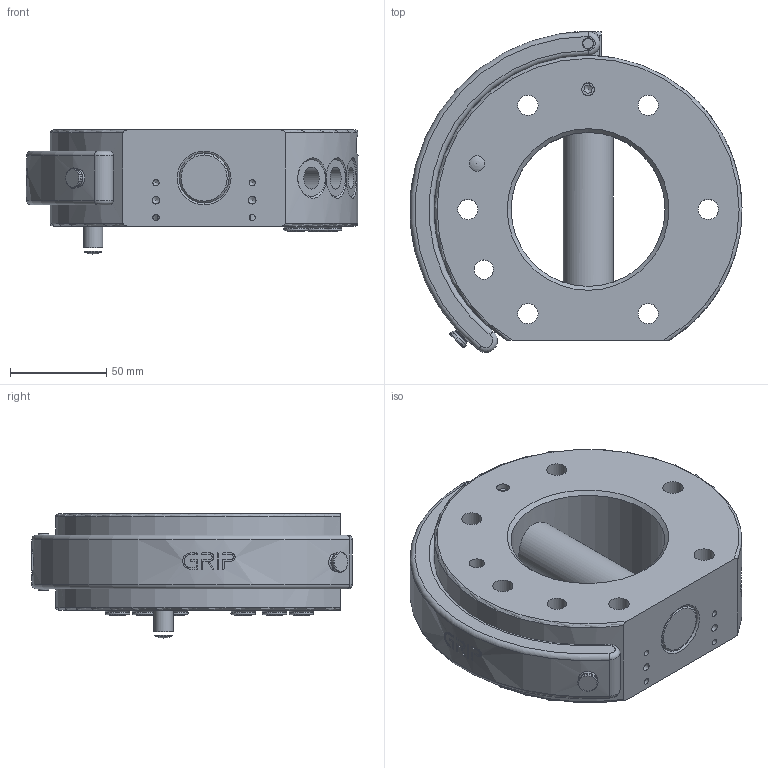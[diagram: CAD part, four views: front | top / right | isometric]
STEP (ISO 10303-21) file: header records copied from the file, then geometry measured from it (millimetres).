
FILE_DESCRIPTION(/* description */ (''),/* implementation_level */ '2;1');
FILE_NAME(/* name */ 'G-HWS160-O-K125_Rev.1.01.stp',/* time_stamp */ '2025-04-01T13:48:49+02:00',/* author */ ('ysplieth'),/* organization */ (''),/* preprocessor_version */ 'ST-DEVELOPER v20',/* originating_system */ 'Autodesk Inventor 2024',/* authorisation */ '');
FILE_SCHEMA (('AUTOMOTIVE_DESIGN { 1 0 10303 214 3 1 1 }'));
Length unit declared in the file: millimetre
Products named in the file (1): Bauteil6
Bounding box: 172.54 x 166.75 x 64.5 mm (x, y, z)
Volume: 773815.4 mm3; surface area: 111690.5 mm2
Topology: 1 solids, 8 shells, 474 faces, 1214 edges, 805 vertices
Faces by surface type: plane 185, cylinder 119, bspline 94, cone 52, torus 22, sphere 2
Full cylindrical faces by diameter (mm): 0.829 x1, 3.242 x4, 4 x2, 4.8 x1, 6 x2, 6.5 x7, 6.647 x1, 7.5 x1, 8 x1, 8.2 x6, 10 x2, 10.5 x6, 10.6 x1, 11.445 x6, 13.2 x6, 13.6 x6, 18 x6, 26 x2, 80 x1
Entity records: 18173 total; most frequent: CARTESIAN_POINT 6851, ORIENTED_EDGE 2400, DIRECTION 1936, EDGE_CURVE 1200, VERTEX_POINT 805, AXIS2_PLACEMENT_3D 687, EDGE_LOOP 587, LINE 562
